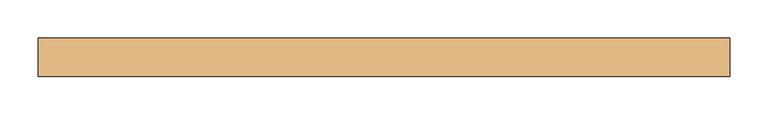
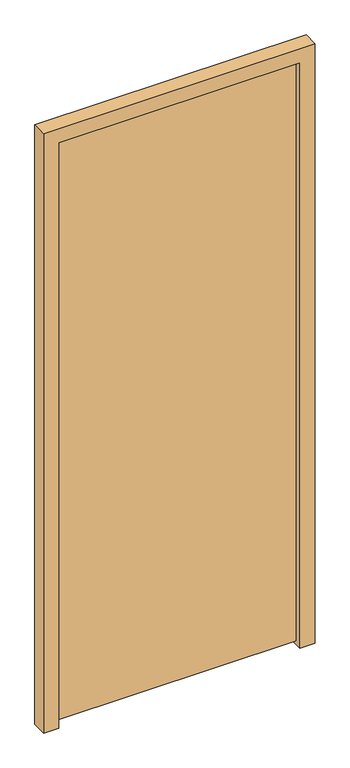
"""IFC4 building model written with IfcOpenShell, lengths in millimetres: door geometry, Dr_Дверь_v2.1 : ДВДГ 21-9_выполняется собственником."""

from ifc_helpers import new_model, si_unit, frame, origin, place, context, project, spatial, polyline, outline, extrude, source, transform, mapped, element, save


def door_87123fce(model_context):
    return source(origin(), model_context, "Body", "SweptSolid", [
        extrude(outline(polyline([(0.0, -325.0), (0.0, -275.0), (2050.0, -275.0), (2050.0, 525.0), (0.0, 525.0), (0.0, 575.0), (2100.0, 575.0), (2100.0, -325.0), (0.0, -325.0)])), frame((0.0, 12.5, 0.0), z_axis=(0.0, 1.0, 0.0), x_axis=(0.0, 0.0, 1.0)), (0.0, 0.0, 1.0), 50.0),
        extrude(outline(polyline([(-275.0, 32.5), (-275.0, 62.5), (525.0, 62.5), (525.0, 32.5), (-275.0, 32.5)])), frame((0.0, 0.0, 14.0), z_axis=(0.0, 0.0, 1.0), x_axis=(1.0, 0.0, 0.0)), (0.0, 0.0, 1.0), 2036.0),
    ])


if __name__ == "__main__":
    model = new_model("IFC4")
    model_context = context("Model", 3, world=origin())
    ifc_project = project(units=[si_unit("LENGTHUNIT", "METRE", prefix="MILLI")], contexts=[model_context])
    site = spatial("IfcSite", under=ifc_project)
    building = spatial("IfcBuilding", under=site)
    placement = place(None, origin())
    door_shape = door_87123fce(model_context)
    element("IfcDoor", 1, ObjectType="Dr_Дверь_v2.1 : ДВДГ 21-9_выполняется собственником", at=placement, inside=building, context=model_context, shape_type="MappedRepresentation", body=[
        mapped(door_shape, transform((0.0, 0.0, 0.0), x_axis=(1.0, 0.0, 0.0), y_axis=(0.0, 1.0, 0.0), z_axis=(0.0, 0.0, 1.0))),
    ])
    save(model, "model.ifc")
